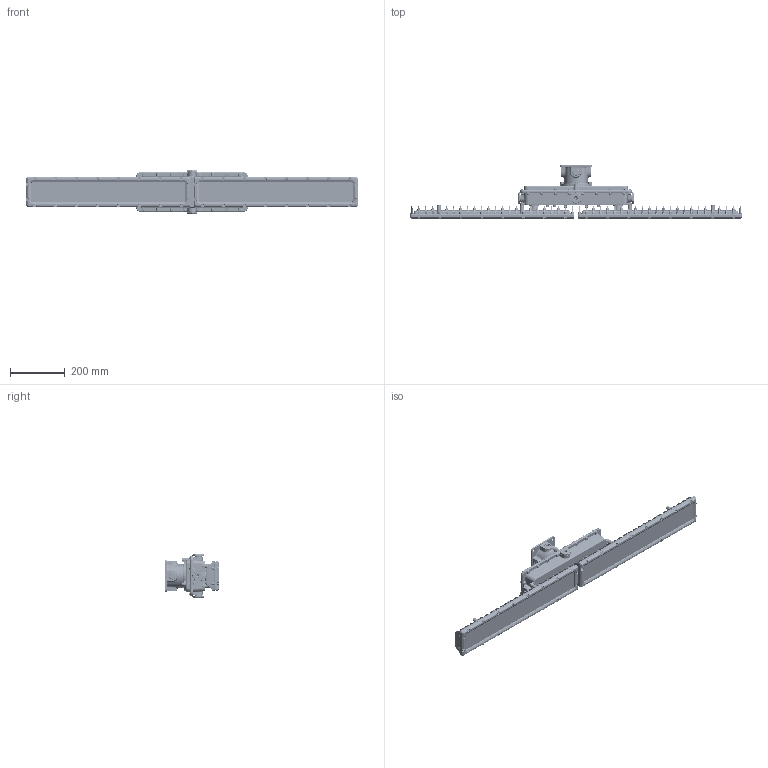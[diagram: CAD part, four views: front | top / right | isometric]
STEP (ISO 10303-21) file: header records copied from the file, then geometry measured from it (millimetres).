
FILE_DESCRIPTION (( 'STEP AP214' ), '1' );
FILE_NAME ('HAL-LC-48-CM.STEP', '2021-05-19T17:09:19', ( '' ), ( '' ), 'SwSTEP 2.0', 'SolidWorks 2020', '' );
FILE_SCHEMA (( 'AUTOMOTIVE_DESIGN' ));
Length unit declared in the file: inch
Products named in the file (20): LED BODY; T3_1; M3x6; M8蹟邡 -b; T2_1; glass; M121鞠褒蹟恇奪; HAL-LC-48-CM; LED PCB-2F; T1_1; M5X12; glass cover; 毀扞欶; Ceiling Mount; T4_1; 黑芛-B; 揤盄蹟譫; 腑极躇猾菜
Assembly tree (130 placements, depth 4):
  HAL-LC-48-CM
    T1_1
      T2_1
        T2_1
        T3_1
        M5X12  x20
        黑芛-B  x4
        揤盄蹟譫
      揤盄蹟譫
      M5X12  x2
    M121鞠褒蹟恇奪
    揤盄蹟譫
    LED BODY
      T4_1
      glass
      glass cover
      M5X12  x20
      LED PCB-2F
      毀扞欶
      M3x6  x17
      腑极躇猾菜
    LED BODY
      T4_1
      glass
      glass cover
      M5X12  x20
      LED PCB-2F
      毀扞欶
      M3x6  x17
      腑极躇猾菜
    M5X12  x4
    Ceiling Mount
    M8蹟邡 -b  x3
Bounding box: 1212 x 194.1 x 159 mm (x, y, z)
Volume: 5567209.2 mm3; surface area: 1712599.4 mm2
Topology: 126 solids, 126 shells, 24929 faces, 66820 edges, 42796 vertices
Faces by surface type: plane 13448, cylinder 5935, bspline 5165, cone 381
Entity records: 345911 total; most frequent: CARTESIAN_POINT 217894, ORIENTED_EDGE 29806, DIRECTION 21601, EDGE_CURVE 14903, VERTEX_POINT 8986, AXIS2_PLACEMENT_3D 7950, EDGE_LOOP 6697, FACE_OUTER_BOUND 6227
